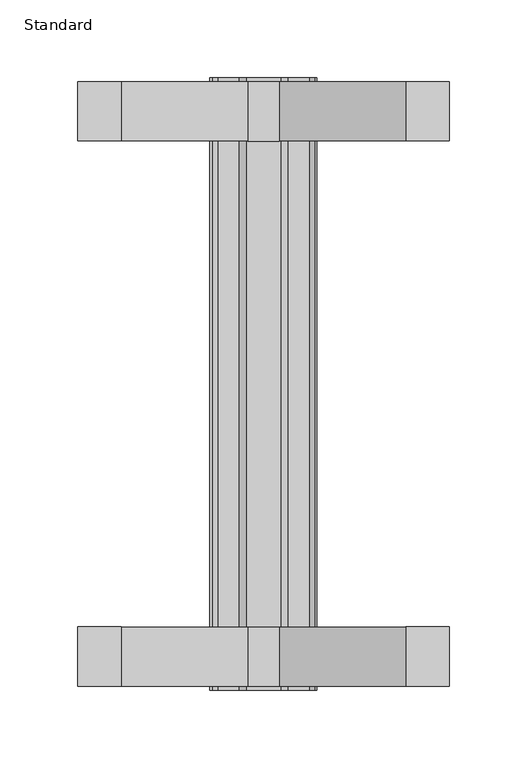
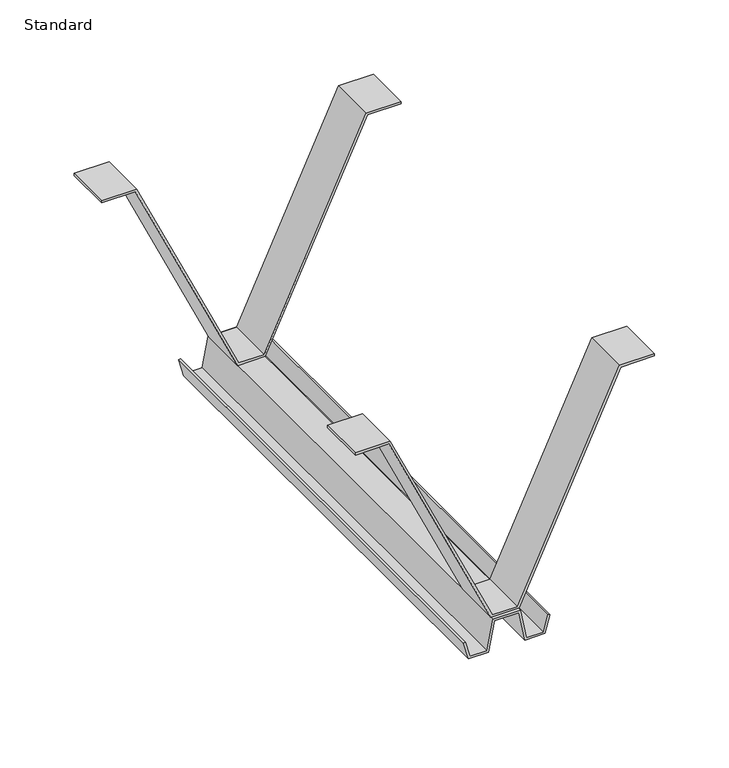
"""IFC4 building model written with IfcOpenShell, lengths in millimetres: electric appliance geometry, Bracket-Floor-Cablofil : Standard."""

import ifcopenshell
import ifcopenshell.guid

model = None  # the IFC model being written
_history = None  # IfcOwnerHistory: only IFC2X3 demands one
_inside = {}  # id of a spatial element -> (the spatial element, [elements in it])
_under = {}  # id of a project, library or spatial element -> (it, [spatial elements below it])
_declared = {}  # id of a project -> (the project, [libraries it declares])
_typed = {}  # id of a type object -> (the type object, [elements of that type])
_made_of = {}  # id of a material, layer set ... -> (it, [elements and type objects made of it])


def new_model(schema):
    """Start an empty IFC model of exactly this schema.

    Asked for "IFC4X3", IfcOpenShell would pick the latest addendum, in which some entities
    have other attributes; the version numbers below select the first issue.
    IFC2X3 requires an IfcOwnerHistory on every rooted entity: one is made here for all.
    """
    global model, _history
    if schema == "IFC4X3":
        model = ifcopenshell.file(schema_version=(4, 3, 0, 0))
    else:
        model = ifcopenshell.file(schema=schema)
    _inside.clear()
    _under.clear()
    _declared.clear()
    _typed.clear()
    _made_of.clear()
    _history = None
    if model.schema == "IFC2X3":
        org = make("IfcOrganization", Name="unknown")
        user = make(
            "IfcPersonAndOrganization",
            ThePerson=make("IfcPerson", FamilyName="unknown"),
            TheOrganization=org,
        )
        app = make(
            "IfcApplication",
            ApplicationDeveloper=org,
            Version="unknown",
            ApplicationFullName="unknown",
            ApplicationIdentifier="unknown",
        )
        _history = make(
            "IfcOwnerHistory",
            OwningUser=user,
            OwningApplication=app,
            ChangeAction="ADDED",
            CreationDate=0,
        )
    return model


def make(cls, **values):
    """One entity of the class cls with the attributes given. An attribute that is None is left unset."""
    return model.create_entity(
        cls, **{name: value for name, value in values.items() if value is not None}
    )


def rooted(cls, **values):
    """An entity with a GlobalId (a new one), such as an element, a storey or a relation."""
    return make(cls, GlobalId=ifcopenshell.guid.new(), OwnerHistory=_history, **values)


def si_unit(unit_type, name, prefix=None):
    """IfcSIUnit, for example si_unit("LENGTHUNIT", "METRE", prefix="MILLI")."""
    return make("IfcSIUnit", UnitType=unit_type, Prefix=prefix, Name=name)


def assignment(units):
    """IfcUnitAssignment: the units of a project."""
    return None if units is None else make("IfcUnitAssignment", Units=units)


def point(xyz):
    """IfcCartesianPoint."""
    return None if xyz is None else make("IfcCartesianPoint", Coordinates=xyz)


def direction(xyz):
    """IfcDirection."""
    return None if xyz is None else make("IfcDirection", DirectionRatios=xyz)


def frame(location, z_axis=None, x_axis=None):
    """IfcAxis2Placement3D, a coordinate frame: its origin and axes. An axis left out is left unset."""
    return make(
        "IfcAxis2Placement3D",
        Location=point(location),
        Axis=direction(z_axis),
        RefDirection=direction(x_axis),
    )


def origin():
    """The frame at (0, 0, 0) with its axes left unset."""
    return frame((0.0, 0.0, 0.0))


def place(relative_to, where):
    """IfcLocalPlacement: puts the frame where relative to a parent placement (None: the world)."""
    return make(
        "IfcLocalPlacement", PlacementRelTo=relative_to, RelativePlacement=where
    )


def context(
    kind, dimensions, precision=None, world=None, true_north=None, identifier=None
):
    """IfcGeometricRepresentationContext, for example the 3D "Model" context."""
    return make(
        "IfcGeometricRepresentationContext",
        ContextIdentifier=identifier,
        ContextType=kind,
        CoordinateSpaceDimension=dimensions,
        Precision=precision,
        WorldCoordinateSystem=world,
        TrueNorth=true_north,
    )


def project(units=None, contexts=None):
    """IfcProject with its units and contexts."""
    return rooted(
        "IfcProject",
        Name="project",
        RepresentationContexts=contexts,
        UnitsInContext=assignment(units),
    )


def spatial(cls, under=None, at=None, **own):
    """A site, building, storey or space (cls), placed at a placement, below another one or the project."""
    s = rooted(cls, ObjectPlacement=at, **own)
    if under is not None:
        _under.setdefault(under.id(), (under, []))[1].append(s)
    return s


def polyline(points):
    """IfcPolyline through the points."""
    return make("IfcPolyline", Points=[point(p) for p in points])


def outline(outer, holes=None, kind="AREA"):
    """IfcArbitraryClosedProfileDef: a profile drawn as a closed curve; with holes, ...WithVoids."""
    if holes is None:
        return make("IfcArbitraryClosedProfileDef", ProfileType=kind, OuterCurve=outer)
    return make(
        "IfcArbitraryProfileDefWithVoids",
        ProfileType=kind,
        OuterCurve=outer,
        InnerCurves=holes,
    )


def extrude(swept, where, along, depth):
    """IfcExtrudedAreaSolid: the profile swept, set in the frame where, extruded along a direction by depth."""
    return make(
        "IfcExtrudedAreaSolid",
        SweptArea=swept,
        Position=where,
        ExtrudedDirection=direction(along),
        Depth=depth,
    )


def shape(context_of_items, identifier, shape_type, items):
    """IfcShapeRepresentation: the items that make up one representation, for example the "Body"."""
    return make(
        "IfcShapeRepresentation",
        ContextOfItems=context_of_items,
        RepresentationIdentifier=identifier,
        RepresentationType=shape_type,
        Items=items,
    )


def source(mapping_origin, context_of_items, identifier, shape_type, items):
    """IfcRepresentationMap: a shape defined once, which mapped items show again and again."""
    return make(
        "IfcRepresentationMap",
        MappingOrigin=mapping_origin,
        MappedRepresentation=shape(context_of_items, identifier, shape_type, items),
    )


def transform(
    local_origin,
    x_axis=None,
    y_axis=None,
    z_axis=None,
    scale=None,
    scale2=None,
    scale3=None,
    uniform=True,
):
    """IfcCartesianTransformationOperator3D, or its non-uniform kind. x_axis, y_axis, z_axis: its Axis1, 2, 3."""
    if uniform:
        return make(
            "IfcCartesianTransformationOperator3D",
            Axis1=direction(x_axis),
            Axis2=direction(y_axis),
            LocalOrigin=point(local_origin),
            Scale=scale,
            Axis3=direction(z_axis),
        )
    return make(
        "IfcCartesianTransformationOperator3DnonUniform",
        Axis1=direction(x_axis),
        Axis2=direction(y_axis),
        LocalOrigin=point(local_origin),
        Scale=scale,
        Axis3=direction(z_axis),
        Scale2=scale2,
        Scale3=scale3,
    )


def mapped(mapping_source, mapping_target):
    """IfcMappedItem: shows the shape of a source again, moved by a transform."""
    return make(
        "IfcMappedItem", MappingSource=mapping_source, MappingTarget=mapping_target
    )


def made_of(thing, what):
    """Note that an element or type object is made of a material, layer set ...; save() writes the relation."""
    if what is not None:
        _made_of.setdefault(what.id(), (what, []))[1].append(thing)
    return thing


def element(
    cls,
    number,
    at=None,
    inside=None,
    cuts=None,
    type_object=None,
    material=None,
    context=None,
    identifier="Body",
    shape_type=None,
    held_by="IfcProductDefinitionShape",
    body=None,
    shapes=None,
    **own,
):
    """One element of the class cls, such as IfcWall. Its Tag is "e" and its number.

    at: its placement. inside: the storey or other place that contains it. cuts: it is an
    opening in that element (IfcRelVoidsElement). A single representation is given by context,
    identifier, shape_type and body (its items); several are given by shapes. held_by: the class
    of the entity that holds the representations. save() writes the other relations.
    """
    e = rooted(cls, Tag="e%d" % number, ObjectPlacement=at, **own)
    if body is not None:
        shapes = [shape(context, identifier, shape_type, body)]
    if shapes is not None:
        e.Representation = make(held_by, Representations=shapes)
    if inside is not None:
        _inside.setdefault(inside.id(), (inside, []))[1].append(e)
    if cuts is not None:
        rooted(
            "IfcRelVoidsElement", RelatingBuildingElement=cuts, RelatedOpeningElement=e
        )
    if type_object is not None:
        _typed.setdefault(type_object.id(), (type_object, []))[1].append(e)
    return made_of(e, material)


def aggregate(whole, parts):
    """IfcRelAggregates: a whole, such as a stair, and the parts it consists of."""
    return rooted("IfcRelAggregates", RelatingObject=whole, RelatedObjects=parts)


def save(model, path):
    """Write the relations noted so far, then the file.

    IfcRelAggregates (storeys below a building ...), IfcRelContainedInSpatialStructure (elements
    in a storey), IfcRelDefinesByType, IfcRelAssociatesMaterial and IfcRelDeclares: one each for
    every whole, place, type object, material and project.
    """
    for whole, parts in _under.values():
        aggregate(whole, parts)
    for where, things in _inside.values():
        rooted(
            "IfcRelContainedInSpatialStructure",
            RelatedElements=things,
            RelatingStructure=where,
        )
    for kind, things in _typed.values():
        rooted("IfcRelDefinesByType", RelatedObjects=things, RelatingType=kind)
    for what, things in _made_of.values():
        rooted("IfcRelAssociatesMaterial", RelatedObjects=things, RelatingMaterial=what)
    for by, libraries in _declared.values():
        rooted("IfcRelDeclares", RelatingContext=by, RelatedDefinitions=libraries)
    model.write(path)


def standard_15ca4c5d(model_context):
    return source(origin(), model_context, "Body", "SweptSolid", [
        extrude(outline(polyline([(201.3, -119.38), (201.3, -92.5859763), (26.3, -11.1233462), (26.3, 11.1233462), (201.3, 92.5859763), (201.3, 119.38), (203.2, 119.38), (203.2, 91.5567946), (28.2, 10.0941645), (28.2, -10.0941645), (203.2, -91.5567946), (203.2, -119.38), (201.3, -119.38)])), frame((0.0, 156.21, 0.0), z_axis=(0.0, 1.0, 0.0), x_axis=(0.0, 0.0, 1.0)), (0.0, 0.0, 1.0), 38.1),
        extrude(outline(polyline([(14.5117714, -34.3894079), (0.0, -30.5009905), (0.0, -14.5100327), (24.8, -9.7600327), (24.8, 9.7600327), (0.0, 14.5100327), (0.0, 30.5009905), (14.5117714, 34.3894079), (14.9, 32.9405192), (1.5, 29.35), (1.5, 15.75), (26.3, 11.0), (26.3, -11.0), (1.5, -15.75), (1.5, -29.35), (14.9, -32.9405192), (14.5117714, -34.3894079)])), frame((0.0, -196.85, 0.0), z_axis=(0.0, 1.0, 0.0), x_axis=(0.0, 0.0, 1.0)), (0.0, 0.0, 1.0), 393.7),
        extrude(outline(polyline([(201.3, -119.38), (201.3, -92.5859763), (26.3, -11.1233462), (26.3, 11.1233462), (201.3, 92.5859763), (201.3, 119.38), (203.2, 119.38), (203.2, 91.5567946), (28.2, 10.0941645), (28.2, -10.0941645), (203.2, -91.5567946), (203.2, -119.38), (201.3, -119.38)])), frame((0.0, -194.31, 0.0), z_axis=(0.0, 1.0, 0.0), x_axis=(0.0, 0.0, 1.0)), (0.0, 0.0, 1.0), 38.1),
    ])


if __name__ == "__main__":
    model = new_model("IFC4")
    model_context = context("Model", 3, world=origin())
    ifc_project = project(units=[si_unit("LENGTHUNIT", "METRE", prefix="MILLI")], contexts=[model_context])
    site = spatial("IfcSite", under=ifc_project)
    building = spatial("IfcBuilding", under=site)
    placement = place(None, origin())
    standard_shape = standard_15ca4c5d(model_context)
    element("IfcElectricAppliance", 1, ObjectType="Bracket-Floor-Cablofil : Standard", at=placement, inside=building, context=model_context, shape_type="MappedRepresentation", body=[
        mapped(standard_shape, transform((0.0, 0.0, 0.0), x_axis=(1.0, 0.0, 0.0), y_axis=(0.0, 1.0, 0.0), z_axis=(0.0, 0.0, 1.0))),
    ])
    save(model, "model.ifc")
